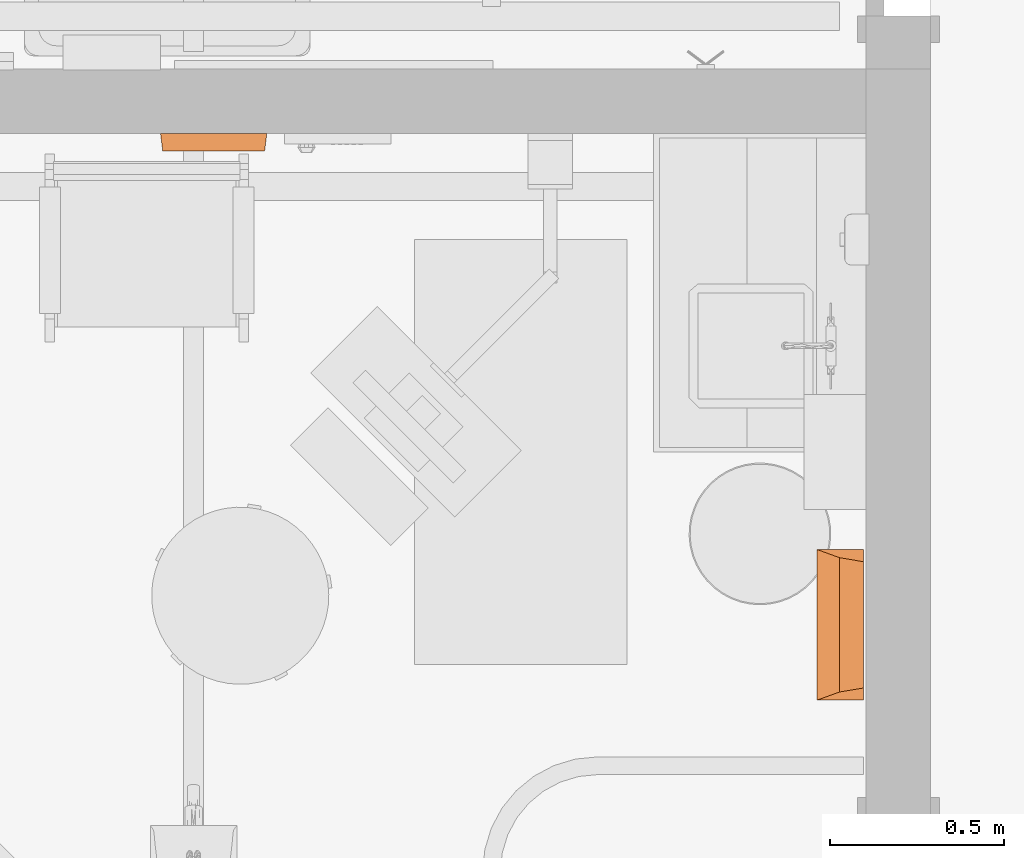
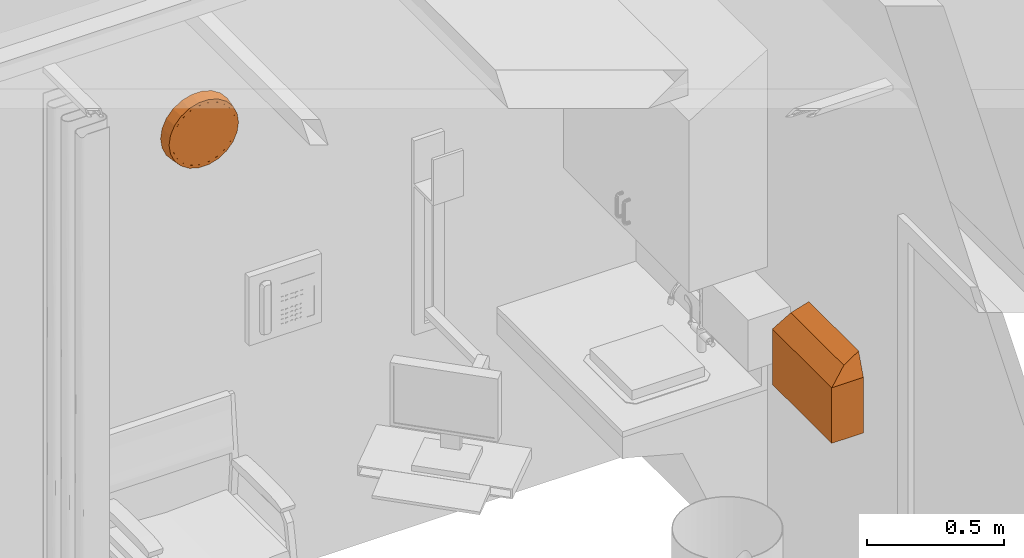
# One storey, part 93 of 142: 2 proxies.
"""IFC2X3 building model written with IfcOpenShell, lengths in feet."""

from ifc_helpers import new_model, entity, si_unit, converted_unit, derived_unit, direction, frame, origin, place, context, subcontext, project, spatial, faceted_brep, source, transform, mapped, type_object, type_shapes, element, save


model = new_model("IFC2X3")

# Units and contexts
model_context = context("Model", 3, precision=0.0001, world=origin(), true_north=direction((6.12303176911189e-17, 1.0)))
body_context = subcontext(model_context, "Body", "Model", "MODEL_VIEW")
ifc_project = project(units=[converted_unit("LENGTHUNIT", "FOOT", entity("IfcRatioMeasure", 0.3048), si_unit("LENGTHUNIT", "METRE"), dimensions=[1, 0, 0, 0, 0, 0, 0]), converted_unit("AREAUNIT", "SQUARE FOOT", entity("IfcRatioMeasure", 0.09290304), si_unit("AREAUNIT", "SQUARE_METRE"), dimensions=[2, 0, 0, 0, 0, 0, 0]), converted_unit("VOLUMEUNIT", "CUBIC FOOT", entity("IfcRatioMeasure", 0.028316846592), si_unit("VOLUMEUNIT", "CUBIC_METRE"), dimensions=[3, 0, 0, 0, 0, 0, 0]), converted_unit("PLANEANGLEUNIT", "DEGREE", entity("IfcRatioMeasure", 0.0174532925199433), si_unit("PLANEANGLEUNIT", "RADIAN"), dimensions=[0, 0, 0, 0, 0, 0, 0]), si_unit("MASSUNIT", "GRAM", prefix="KILO"), derived_unit("MASSDENSITYUNIT", [(si_unit("MASSUNIT", "GRAM", prefix="KILO"), 1), (si_unit("LENGTHUNIT", "METRE"), -3)]), si_unit("TIMEUNIT", "SECOND"), si_unit("FREQUENCYUNIT", "HERTZ"), si_unit("THERMODYNAMICTEMPERATUREUNIT", "DEGREE_CELSIUS"), derived_unit("THERMALTRANSMITTANCEUNIT", [(si_unit("MASSUNIT", "GRAM", prefix="KILO"), 1), (si_unit("THERMODYNAMICTEMPERATUREUNIT", "KELVIN"), -1), (si_unit("TIMEUNIT", "SECOND"), -3)]), derived_unit("VOLUMETRICFLOWRATEUNIT", [(si_unit("LENGTHUNIT", "METRE"), 3), (si_unit("TIMEUNIT", "SECOND"), -1)]), si_unit("ELECTRICCURRENTUNIT", "AMPERE"), si_unit("ELECTRICVOLTAGEUNIT", "VOLT"), si_unit("POWERUNIT", "WATT"), si_unit("FORCEUNIT", "NEWTON"), si_unit("ILLUMINANCEUNIT", "LUX"), si_unit("LUMINOUSFLUXUNIT", "LUMEN"), si_unit("LUMINOUSINTENSITYUNIT", "CANDELA"), derived_unit("USERDEFINED", [(si_unit("MASSUNIT", "GRAM", prefix="KILO"), -1), (si_unit("LENGTHUNIT", "METRE"), -2), (si_unit("TIMEUNIT", "SECOND"), 3), (si_unit("LUMINOUSFLUXUNIT", "LUMEN"), 1)]), derived_unit("LINEARVELOCITYUNIT", [(si_unit("LENGTHUNIT", "METRE"), 1), (si_unit("TIMEUNIT", "SECOND"), -1)]), si_unit("PRESSUREUNIT", "PASCAL"), derived_unit("USERDEFINED", [(si_unit("LENGTHUNIT", "METRE"), -2), (si_unit("MASSUNIT", "GRAM", prefix="KILO"), 1), (si_unit("TIMEUNIT", "SECOND"), -2)])], contexts=[model_context])

# Site, building, storey
site_placement = place(None, origin())
site = spatial("IfcSite", under=ifc_project, at=site_placement, Name="Default", CompositionType="ELEMENT")
building_placement = place(site_placement, origin())
building = spatial("IfcBuilding", under=site, at=building_placement, Name="OUTPATIENT / PACT CLINIC (Ch. 265)", CompositionType="ELEMENT")
storey_placement = place(building_placement, origin())
storey = spatial("IfcBuildingStorey", under=building, at=storey_placement, Name="LEVEL 1", CompositionType="ELEMENT", Elevation=0.0)

# Proxy
building_element_proxy_type_1 = type_object("IfcBuildingElementProxyType", Name="A5108 - Waste Disposal Unit, Sharps 17\"x 13\"", PredefinedType="NOTDEFINED")
shared_shape_1 = source(origin(), body_context, "Body", "Brep", [
    faceted_brep([(0.70833333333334, 0.0, 0.0), (-0.708333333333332, 0.0, 0.0), (-0.708333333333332, 0.437500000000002, 0.0), (0.70833333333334, 0.437500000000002, 0.0), (0.70833333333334, 0.437500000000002, 0.810989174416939), (0.70833333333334, 0.0025667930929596, 0.810989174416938), (0.70833333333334, 0.0, 0.808422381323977), (-0.708333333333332, 0.437500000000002, 0.810989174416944), (-0.594042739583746, 0.437500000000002, 1.125), (0.594042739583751, 0.437500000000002, 1.125), (-0.708333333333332, 0.0, 0.808422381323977), (-0.708333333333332, 0.00256679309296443, 0.810989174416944), (0.632497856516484, 0.210923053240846, 1.01934543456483), (-0.632497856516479, 0.210923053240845, 1.01934543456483)], [[[0, 1, 2, 3]], [[0, 3, 4, 5, 6]], [[3, 2, 7, 8, 9, 4]], [[2, 1, 10, 11, 7]], [[1, 0, 6, 10]], [[10, 6, 5, 12, 13, 11]], [[12, 9, 8, 13]], [[5, 4, 9, 12]], [[8, 7, 11, 13]]]),
])
type_shapes(building_element_proxy_type_1, [shared_shape_1])
proxy_1_placement = place(storey_placement, frame((402.999768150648, -926.066351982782, 3.5), z_axis=(0.0, 0.0, 1.0), x_axis=(0.0, -1.0, 0.0)))
element("IfcBuildingElementProxy", 1, at=proxy_1_placement, inside=storey, type_object=building_element_proxy_type_1, Name="A5108 - Waste Disposal Unit, Sharps1:A5108 - Waste Disposal Unit, Sharps 17\"x 13\"", ObjectType="A5108 - Waste Disposal Unit, Sharps 17\"x 13\"", context=body_context, shape_type="MappedRepresentation", body=[
    mapped(shared_shape_1, transform((0.0, 0.0, 0.0), scale=1.0)),
])

# Space
space_placement = place(storey_placement, origin())
space = spatial("IfcSpace", under=storey, at=space_placement, Name="EXPA01", CompositionType="ELEMENT", InteriorOrExteriorSpace="INTERNAL")

# Proxy
building_element_proxy_type_2 = type_object("IfcBuildingElementProxyType", Name="F3200 - Clock, Battery, 12in Dia", PredefinedType="NOTDEFINED")
shared_shape_2 = source(origin(), body_context, "Body", "Brep", [
    faceted_brep([(0.0527623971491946, -0.166666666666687, -0.0087350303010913), (0.143371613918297, -0.166666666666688, 0.0607918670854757), (0.212898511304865, -0.16666666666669, 0.151401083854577), (0.256604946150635, -0.166666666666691, 0.256917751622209), (0.271512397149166, -0.166666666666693, 0.370151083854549), (0.256604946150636, -0.166666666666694, 0.483384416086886), (0.212898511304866, -0.166666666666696, 0.588901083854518), (0.143371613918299, -0.166666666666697, 0.67951030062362), (0.052762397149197, -0.166666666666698, 0.749037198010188), (-0.0527542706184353, -0.166666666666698, 0.792743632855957), (-0.165987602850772, -0.166666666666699, 0.807651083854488), (-0.279220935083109, -0.166666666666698, 0.792743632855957), (-0.384737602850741, -0.166666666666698, 0.749037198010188), (-0.475346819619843, -0.166666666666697, 0.679510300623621), (-0.544873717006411, -0.166666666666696, 0.588901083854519), (-0.588580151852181, -0.166666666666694, 0.483384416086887), (-0.603487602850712, -0.166666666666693, 0.37015108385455), (-0.588580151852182, -0.166666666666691, 0.256917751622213), (-0.544873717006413, -0.16666666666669, 0.151401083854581), (-0.475346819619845, -0.166666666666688, 0.0607918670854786), (-0.384737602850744, -0.166666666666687, -0.0087350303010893), (-0.279220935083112, -0.166666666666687, -0.052441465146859), (-0.165987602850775, -0.166666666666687, -0.0673489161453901), (-0.0527542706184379, -0.166666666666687, -0.0524414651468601), (0.256604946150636, -0.145833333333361, 0.483384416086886), (0.271512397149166, -0.145833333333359, 0.370151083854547), (0.256604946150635, -0.145833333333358, 0.256917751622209), (0.212898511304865, -0.145833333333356, 0.151401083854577), (0.143371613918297, -0.145833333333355, 0.0607918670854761), (0.0527623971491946, -0.145833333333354, -0.00873503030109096), (-0.0527542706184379, -0.145833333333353, -0.0524414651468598), (-0.165987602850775, -0.145833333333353, -0.0673489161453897), (-0.279220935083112, -0.145833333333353, -0.0524414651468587), (-0.384737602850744, -0.145833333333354, -0.00873503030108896), (-0.475346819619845, -0.145833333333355, 0.060791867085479), (-0.544873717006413, -0.145833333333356, 0.151401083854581), (-0.588580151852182, -0.145833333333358, 0.256917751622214), (-0.603487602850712, -0.145833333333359, 0.37015108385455), (-0.588580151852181, -0.145833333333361, 0.483384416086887), (-0.544873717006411, -0.145833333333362, 0.588901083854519), (-0.475346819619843, -0.145833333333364, 0.679510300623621), (-0.384737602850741, -0.145833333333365, 0.749037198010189), (-0.279220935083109, -0.145833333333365, 0.792743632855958), (-0.165987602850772, -0.145833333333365, 0.807651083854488), (-0.0527542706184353, -0.145833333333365, 0.792743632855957), (0.052762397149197, -0.145833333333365, 0.749037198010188), (0.143371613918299, -0.145833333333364, 0.67951030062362), (0.212898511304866, -0.145833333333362, 0.588901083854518)], [[[0, 1, 2, 3, 4, 5, 6, 7, 8, 9, 10, 11, 12, 13, 14, 15, 16, 17, 18, 19, 20, 21, 22, 23]], [[24, 25, 26, 27, 28, 29, 30, 31, 32, 33, 34, 35, 36, 37, 38, 39, 40, 41, 42, 43, 44, 45, 46, 47]], [[36, 17, 16, 37]], [[35, 18, 17, 36]], [[20, 19, 34, 33]], [[35, 34, 19, 18]], [[21, 20, 33, 32]], [[22, 21, 32, 31]], [[30, 23, 22, 31]], [[29, 0, 23, 30]], [[2, 1, 28, 27]], [[29, 28, 1, 0]], [[3, 2, 27, 26]], [[4, 3, 26, 25]], [[24, 5, 4, 25]], [[47, 6, 5, 24]], [[8, 7, 46, 45]], [[47, 46, 7, 6]], [[9, 8, 45, 44]], [[10, 9, 44, 43]], [[11, 10, 43, 42]], [[12, 11, 42, 41]], [[14, 39, 38, 15]], [[15, 38, 37, 16]], [[12, 41, 40, 13]], [[40, 39, 14, 13]]]),
    faceted_brep([(-0.493417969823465, 0.0, -0.00772370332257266), (-0.586614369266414, 0.0, 0.0998306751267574), (-0.165987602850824, 0.0, 0.370151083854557), (-0.373695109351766, 0.0, -0.0846649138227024), (-0.645734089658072, 0.0, 0.229284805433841), (-0.665987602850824, 0.0, 0.370151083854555), (-0.645734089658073, 0.0, 0.51101736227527), (-0.586614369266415, 0.0, 0.640471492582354), (-0.493417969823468, 0.0, 0.748025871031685), (-0.373695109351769, 0.0, 0.824967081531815), (-0.237145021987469, 0.0, 0.865061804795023), (-0.0948301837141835, 0.0, 0.865061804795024), (0.0417199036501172, 0.0, 0.824967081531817), (0.161442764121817, 0.0, 0.748025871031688), (0.254639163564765, 0.0, 0.640471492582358), (0.313758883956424, 0.0, 0.511017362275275), (0.334012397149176, 0.0, 0.370151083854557), (0.313758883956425, 0.0, 0.229284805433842), (0.254639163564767, 0.0, 0.0998306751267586), (0.161442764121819, 0.0, -0.00772370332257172), (0.0417199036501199, 0.0, -0.0846649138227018), (-0.0948301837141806, 0.0, -0.124759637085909), (-0.237145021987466, 0.0, -0.124759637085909), (-0.165987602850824, -0.145833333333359, 0.370151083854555), (-0.534036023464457, -0.145833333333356, 0.133620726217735), (-0.452489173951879, -0.145833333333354, 0.0395106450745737), (-0.585765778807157, -0.145833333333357, 0.246893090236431), (-0.347731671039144, -0.145833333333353, -0.0278129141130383), (-0.228250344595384, -0.145833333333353, -0.0628957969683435), (-0.603487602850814, -0.145833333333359, 0.370151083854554), (-0.103724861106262, -0.145833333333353, -0.0628957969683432), (0.0157564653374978, -0.145833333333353, -0.0278129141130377), (0.120513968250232, -0.145833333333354, 0.0395106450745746), (0.20206081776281, -0.145833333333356, 0.133620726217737), (0.253790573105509, -0.145833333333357, 0.246893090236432), (0.271512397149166, -0.145833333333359, 0.370151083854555), (-0.585765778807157, -0.145833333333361, 0.493409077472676), (-0.534036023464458, -0.145833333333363, 0.606681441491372), (-0.452489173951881, -0.145833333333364, 0.700791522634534), (-0.347731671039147, -0.145833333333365, 0.768115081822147), (-0.228250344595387, -0.145833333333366, 0.803197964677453), (0.253790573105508, -0.145833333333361, 0.49340907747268), (0.202060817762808, -0.145833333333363, 0.606681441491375), (0.12051396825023, -0.145833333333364, 0.700791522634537), (0.0157564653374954, -0.145833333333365, 0.768115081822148), (-0.103724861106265, -0.145833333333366, 0.803197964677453), (0.253790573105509, -0.166666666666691, 0.246893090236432), (0.271512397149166, -0.166666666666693, 0.370151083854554), (0.20206081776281, -0.166666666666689, 0.133620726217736), (-0.103724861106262, -0.166666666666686, -0.0628957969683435), (0.0157564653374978, -0.166666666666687, -0.0278129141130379), (0.120513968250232, -0.166666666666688, 0.0395106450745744), (-0.228250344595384, -0.166666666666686, -0.0628957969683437), (-0.452489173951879, -0.166666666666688, 0.0395106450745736), (-0.347731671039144, -0.166666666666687, -0.0278129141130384), (-0.603487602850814, -0.166666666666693, 0.370151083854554), (-0.585765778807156, -0.166666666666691, 0.246893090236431), (-0.534036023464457, -0.166666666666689, 0.133620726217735), (-0.585765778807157, -0.166666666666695, 0.493409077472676), (-0.534036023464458, -0.166666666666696, 0.606681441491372), (-0.347731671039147, -0.166666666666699, 0.768115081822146), (-0.452489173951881, -0.166666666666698, 0.700791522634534), (-0.228250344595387, -0.166666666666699, 0.803197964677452), (-0.103724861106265, -0.166666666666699, 0.803197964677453), (0.0157564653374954, -0.166666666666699, 0.768115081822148), (0.12051396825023, -0.166666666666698, 0.700791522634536), (0.253790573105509, -0.166666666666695, 0.493409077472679), (0.202060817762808, -0.166666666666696, 0.606681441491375), (-0.62574465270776, -0.166666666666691, 0.235154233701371), (-0.64515426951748, -0.166666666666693, 0.370151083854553), (-0.569088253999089, -0.166666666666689, 0.111094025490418), (-0.479775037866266, -0.166666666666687, 0.00802107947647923), (-0.365040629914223, -0.166666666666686, -0.0657142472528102), (-0.234180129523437, -0.166666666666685, -0.104138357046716), (-0.0977950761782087, -0.166666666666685, -0.104138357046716), (0.0330654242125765, -0.166666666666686, -0.0657142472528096), (0.147799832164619, -0.166666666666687, 0.00802107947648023), (0.237113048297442, -0.166666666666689, 0.11109402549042), (0.293769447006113, -0.166666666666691, 0.235154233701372), (0.313179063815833, -0.166666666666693, 0.370151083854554), (0.293769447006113, -0.166666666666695, 0.50514793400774), (0.237113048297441, -0.166666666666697, 0.629208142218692), (0.147799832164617, -0.166666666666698, 0.732281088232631), (0.0330654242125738, -0.1666666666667, 0.80601641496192), (-0.0977950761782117, -0.1666666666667, 0.844440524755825), (-0.23418012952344, -0.1666666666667, 0.844440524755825), (-0.365040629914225, -0.1666666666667, 0.806016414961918), (-0.479775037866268, -0.166666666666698, 0.732281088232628), (-0.569088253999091, -0.166666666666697, 0.629208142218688), (-0.625744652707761, -0.166666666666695, 0.505147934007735)], [[[0, 1, 2]], [[0, 2, 3]], [[4, 2, 1]], [[2, 4, 5]], [[5, 6, 2]], [[2, 6, 7]], [[2, 7, 8]], [[2, 8, 9]], [[9, 10, 2]], [[11, 2, 10]], [[2, 11, 12]], [[2, 12, 13]], [[14, 2, 13]], [[2, 14, 15]], [[15, 16, 2]], [[2, 16, 17]], [[2, 17, 18]], [[18, 19, 2]], [[19, 20, 2]], [[21, 2, 20]], [[2, 21, 22]], [[22, 3, 2]], [[23, 24, 25]], [[24, 23, 26]], [[27, 23, 25]], [[23, 27, 28]], [[29, 26, 23]], [[28, 30, 23]], [[31, 23, 30]], [[23, 31, 32]], [[23, 32, 33]], [[33, 34, 23]], [[34, 35, 23]], [[23, 36, 29]], [[37, 36, 23]], [[38, 37, 23]], [[39, 38, 23]], [[23, 40, 39]], [[23, 35, 41]], [[41, 42, 23]], [[43, 23, 42]], [[43, 44, 23]], [[44, 45, 23]], [[40, 23, 45]], [[46, 47, 35, 34]], [[46, 34, 33, 48]], [[31, 30, 49, 50]], [[32, 31, 50, 51]], [[51, 48, 33, 32]], [[30, 28, 52, 49]], [[27, 25, 53, 54]], [[28, 27, 54, 52]], [[29, 55, 56, 26]], [[26, 56, 57, 24]], [[24, 57, 53, 25]], [[55, 29, 36, 58]], [[58, 36, 37, 59]], [[60, 61, 38, 39]], [[59, 37, 38, 61]], [[39, 40, 62, 60]], [[40, 45, 63, 62]], [[64, 63, 45, 44]], [[64, 44, 43, 65]], [[41, 35, 47, 66]], [[42, 41, 66, 67]], [[67, 65, 43, 42]], [[68, 55, 69]], [[56, 55, 68]], [[68, 70, 56]], [[70, 57, 56]], [[71, 57, 70]], [[57, 71, 53]], [[72, 53, 71]], [[54, 53, 72]], [[72, 73, 54]], [[73, 52, 54]], [[49, 52, 73]], [[73, 74, 49]], [[74, 50, 49]], [[75, 50, 74]], [[50, 75, 51]], [[76, 51, 75]], [[48, 51, 76]], [[76, 77, 48]], [[77, 46, 48]], [[78, 46, 77]], [[46, 78, 47]], [[78, 79, 47]], [[79, 80, 47]], [[66, 47, 80]], [[80, 81, 66]], [[66, 81, 67]], [[82, 67, 81]], [[67, 82, 65]], [[65, 82, 83]], [[64, 65, 83]], [[83, 84, 64]], [[64, 84, 63]], [[85, 63, 84]], [[63, 85, 62]], [[62, 85, 60]], [[86, 60, 85]], [[60, 86, 61]], [[61, 86, 87]], [[59, 61, 87]], [[87, 88, 59]], [[59, 88, 58]], [[89, 58, 88]], [[55, 89, 69]], [[58, 89, 55]], [[78, 17, 16, 79]], [[77, 18, 17, 78]], [[19, 76, 75, 20]], [[77, 76, 19, 18]], [[20, 75, 74, 21]], [[74, 73, 22, 21]], [[22, 73, 72, 3]], [[0, 3, 72, 71]], [[4, 1, 70, 68]], [[70, 1, 0, 71]], [[5, 4, 68, 69]], [[89, 6, 5, 69]], [[88, 7, 6, 89]], [[8, 87, 86, 9]], [[88, 87, 8, 7]], [[9, 86, 85, 10]], [[85, 84, 11, 10]], [[83, 12, 11, 84]], [[82, 13, 12, 83]], [[14, 81, 80, 15]], [[82, 81, 14, 13]], [[15, 80, 79, 16]]]),
])
type_shapes(building_element_proxy_type_2, [shared_shape_2])
proxy_2_placement = place(space_placement, frame((397.489351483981, -921.441351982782, 6.50000000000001)))
element("IfcBuildingElementProxy", 2, at=proxy_2_placement, inside=space, type_object=building_element_proxy_type_2, Name="F3200 - Clock, Battery, 12in Dia:F3200 - Clock, Battery, 12in Dia", ObjectType="F3200 - Clock, Battery, 12in Dia", context=body_context, shape_type="MappedRepresentation", body=[
    mapped(shared_shape_2, transform((0.0, 0.0, 0.0), scale=1.0)),
])

save(model, "model.ifc")
